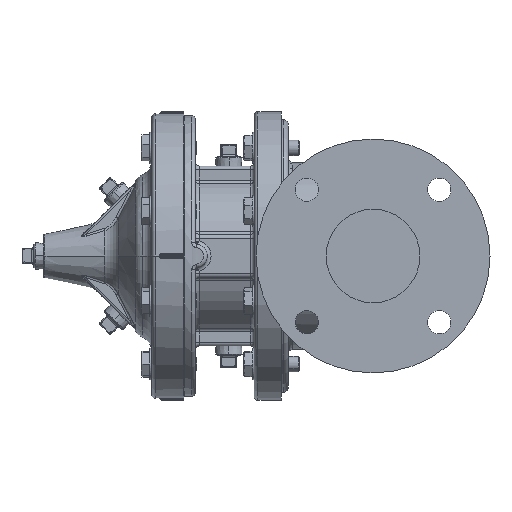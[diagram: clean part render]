
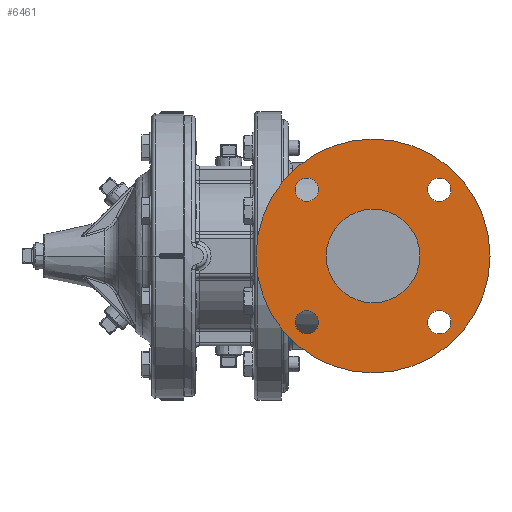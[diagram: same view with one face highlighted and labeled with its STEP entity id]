
A CAD part, left-side view. The second image highlights one B-rep face of the part: STEP entity #6461.
In plain terms, the highlighted planar face has unit normal (-1, 0, 0).
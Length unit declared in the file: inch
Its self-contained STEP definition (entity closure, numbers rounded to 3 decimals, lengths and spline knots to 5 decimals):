
#175 = CARTESIAN_POINT ( 'NONE',  ( -6., 2.12132, -2.49632 ) ) ;
#448 = DIRECTION ( 'NONE',  ( 0., 1., 0. ) ) ;
#462 = DIRECTION ( 'NONE',  ( -1., 0., 0. ) ) ;
#495 = EDGE_LOOP ( 'NONE', ( #30201, #11925 ) ) ;
#1081 = CARTESIAN_POINT ( 'NONE',  ( -6., 1.74632, 2.12132 ) ) ;
#1270 = CIRCLE ( 'NONE', #4134, 1.5 ) ;
#1379 = VERTEX_POINT ( 'NONE', #31043 ) ;
#1425 = DIRECTION ( 'NONE',  ( 0., -1., 0. ) ) ;
#1716 = CIRCLE ( 'NONE', #2706, 0.375 ) ;
#2130 = VERTEX_POINT ( 'NONE', #15924 ) ;
#2172 = CIRCLE ( 'NONE', #16951, 0.375 ) ;
#2397 = AXIS2_PLACEMENT_3D ( 'NONE', #24529, #9007, #27159 ) ;
#2706 = AXIS2_PLACEMENT_3D ( 'NONE', #4688, #22802, #7264 ) ;
#2957 = FACE_BOUND ( 'NONE', #27033, .T. ) ;
#3068 = ORIENTED_EDGE ( 'NONE', *, *, #25848, .T. ) ;
#3079 = EDGE_CURVE ( 'NONE', #21194, #2130, #23869, .T. ) ;
#3099 = ORIENTED_EDGE ( 'NONE', *, *, #13974, .F. ) ;
#3393 = ORIENTED_EDGE ( 'NONE', *, *, #25536, .T. ) ;
#3557 = CIRCLE ( 'NONE', #8968, 0.375 ) ;
#3596 = DIRECTION ( 'NONE',  ( -1., 0., 0. ) ) ;
#3681 = CARTESIAN_POINT ( 'NONE',  ( -6., -2.12132, 2.12132 ) ) ;
#3771 = FACE_BOUND ( 'NONE', #11398, .T. ) ;
#3871 = VERTEX_POINT ( 'NONE', #1081 ) ;
#4134 = AXIS2_PLACEMENT_3D ( 'NONE', #7336, #25468, #9949 ) ;
#4347 = AXIS2_PLACEMENT_3D ( 'NONE', #31495, #15976, #448 ) ;
#4688 = CARTESIAN_POINT ( 'NONE',  ( -6., -2.12132, -2.12132 ) ) ;
#5782 = EDGE_LOOP ( 'NONE', ( #3393, #3068 ) ) ;
#5791 = VERTEX_POINT ( 'NONE', #18287 ) ;
#6229 = VERTEX_POINT ( 'NONE', #20164 ) ;
#6284 = DIRECTION ( 'NONE',  ( 0., 0., -1. ) ) ;
#6461 = ADVANCED_FACE ( 'NONE', ( #16732, #22821, #3771, #2957, #29708, #15931 ), #26713, .T. ) ;
#7264 = DIRECTION ( 'NONE',  ( 0., 1., 0. ) ) ;
#7336 = CARTESIAN_POINT ( 'NONE',  ( -6., 0., 0. ) ) ;
#7349 = EDGE_CURVE ( 'NONE', #9423, #14974, #1270, .T. ) ;
#8240 = VERTEX_POINT ( 'NONE', #175 ) ;
#8333 = CARTESIAN_POINT ( 'NONE',  ( -6., 0., 0. ) ) ;
#8968 = AXIS2_PLACEMENT_3D ( 'NONE', #3681, #21801, #6284 ) ;
#9007 = DIRECTION ( 'NONE',  ( -1., 0., 0. ) ) ;
#9423 = VERTEX_POINT ( 'NONE', #29443 ) ;
#9525 = CIRCLE ( 'NONE', #21653, 0.375 ) ;
#9604 = CIRCLE ( 'NONE', #28481, 3.75 ) ;
#9783 = DIRECTION ( 'NONE',  ( -1., 0., 0. ) ) ;
#9929 = CARTESIAN_POINT ( 'NONE',  ( -6., -2.12132, 1.74632 ) ) ;
#9949 = DIRECTION ( 'NONE',  ( 0., -1., 0. ) ) ;
#10596 = ORIENTED_EDGE ( 'NONE', *, *, #20784, .F. ) ;
#10631 = DIRECTION ( 'NONE',  ( -1., 0., 0. ) ) ;
#10918 = DIRECTION ( 'NONE',  ( 0., 0., 1. ) ) ;
#11204 = CARTESIAN_POINT ( 'NONE',  ( -6., 0., 3.75 ) ) ;
#11398 = EDGE_LOOP ( 'NONE', ( #20267, #3099 ) ) ;
#11802 = EDGE_CURVE ( 'NONE', #5791, #17059, #3557, .T. ) ;
#11925 = ORIENTED_EDGE ( 'NONE', *, *, #14701, .F. ) ;
#12559 = DIRECTION ( 'NONE',  ( -1., 0., 0. ) ) ;
#12746 = CARTESIAN_POINT ( 'NONE',  ( -6., -2.12132, 2.12132 ) ) ;
#13320 = ORIENTED_EDGE ( 'NONE', *, *, #30744, .F. ) ;
#13956 = CIRCLE ( 'NONE', #25678, 0.375 ) ;
#13974 = EDGE_CURVE ( 'NONE', #8240, #20077, #21750, .T. ) ;
#14701 = EDGE_CURVE ( 'NONE', #1379, #3871, #9525, .T. ) ;
#14974 = VERTEX_POINT ( 'NONE', #22247 ) ;
#15302 = EDGE_LOOP ( 'NONE', ( #15720, #15969 ) ) ;
#15360 = DIRECTION ( 'NONE',  ( 0., 0., -1. ) ) ;
#15589 = CIRCLE ( 'NONE', #27907, 0.375 ) ;
#15720 = ORIENTED_EDGE ( 'NONE', *, *, #11802, .F. ) ;
#15924 = CARTESIAN_POINT ( 'NONE',  ( -6., -2.49632, -2.12132 ) ) ;
#15931 = FACE_OUTER_BOUND ( 'NONE', #5782, .T. ) ;
#15969 = ORIENTED_EDGE ( 'NONE', *, *, #30960, .F. ) ;
#15976 = DIRECTION ( 'NONE',  ( -1., 0., 0. ) ) ;
#15991 = CARTESIAN_POINT ( 'NONE',  ( -6., 2.12132, -2.12132 ) ) ;
#16162 = CIRCLE ( 'NONE', #2397, 3.75 ) ;
#16732 = FACE_BOUND ( 'NONE', #15302, .T. ) ;
#16850 = EDGE_CURVE ( 'NONE', #3871, #1379, #2172, .T. ) ;
#16951 = AXIS2_PLACEMENT_3D ( 'NONE', #28120, #12559, #30705 ) ;
#16963 = DIRECTION ( 'NONE',  ( -1., 0., 0. ) ) ;
#17059 = VERTEX_POINT ( 'NONE', #9929 ) ;
#18287 = CARTESIAN_POINT ( 'NONE',  ( -6., -2.12132, 2.49632 ) ) ;
#18614 = DIRECTION ( 'NONE',  ( 0., 0., 1. ) ) ;
#19128 = CARTESIAN_POINT ( 'NONE',  ( -6., 0., 0. ) ) ;
#19298 = EDGE_CURVE ( 'NONE', #20077, #8240, #13956, .T. ) ;
#19744 = EDGE_LOOP ( 'NONE', ( #10596, #22757 ) ) ;
#20077 = VERTEX_POINT ( 'NONE', #30652 ) ;
#20164 = CARTESIAN_POINT ( 'NONE',  ( -6., 0., -3.75 ) ) ;
#20267 = ORIENTED_EDGE ( 'NONE', *, *, #19298, .F. ) ;
#20784 = EDGE_CURVE ( 'NONE', #2130, #21194, #1716, .T. ) ;
#20846 = ORIENTED_EDGE ( 'NONE', *, *, #7349, .F. ) ;
#21194 = VERTEX_POINT ( 'NONE', #32392 ) ;
#21653 = AXIS2_PLACEMENT_3D ( 'NONE', #25308, #9783, #27954 ) ;
#21713 = AXIS2_PLACEMENT_3D ( 'NONE', #32472, #16963, #1425 ) ;
#21719 = DIRECTION ( 'NONE',  ( 0., -1., 0. ) ) ;
#21750 = CIRCLE ( 'NONE', #32276, 0.375 ) ;
#21801 = DIRECTION ( 'NONE',  ( -1., 0., 0. ) ) ;
#22247 = CARTESIAN_POINT ( 'NONE',  ( -6., 1.5, 0. ) ) ;
#22757 = ORIENTED_EDGE ( 'NONE', *, *, #3079, .F. ) ;
#22802 = DIRECTION ( 'NONE',  ( -1., 0., 0. ) ) ;
#22821 = FACE_BOUND ( 'NONE', #19744, .T. ) ;
#23869 = CIRCLE ( 'NONE', #4347, 0.375 ) ;
#24529 = CARTESIAN_POINT ( 'NONE',  ( -6., 0., 0. ) ) ;
#25308 = CARTESIAN_POINT ( 'NONE',  ( -6., 2.12132, 2.12132 ) ) ;
#25468 = DIRECTION ( 'NONE',  ( -1., 0., 0. ) ) ;
#25536 = EDGE_CURVE ( 'NONE', #31502, #6229, #16162, .T. ) ;
#25678 = AXIS2_PLACEMENT_3D ( 'NONE', #15991, #462, #18614 ) ;
#25715 = CIRCLE ( 'NONE', #28585, 1.5 ) ;
#25848 = EDGE_CURVE ( 'NONE', #6229, #31502, #9604, .T. ) ;
#26169 = CARTESIAN_POINT ( 'NONE',  ( -6., 2.12132, -2.12132 ) ) ;
#26451 = DIRECTION ( 'NONE',  ( -1., 0., 0. ) ) ;
#26713 = PLANE ( 'NONE',  #21713 ) ;
#27033 = EDGE_LOOP ( 'NONE', ( #20846, #13320 ) ) ;
#27159 = DIRECTION ( 'NONE',  ( 0., 0., 1. ) ) ;
#27907 = AXIS2_PLACEMENT_3D ( 'NONE', #12746, #30875, #15360 ) ;
#27954 = DIRECTION ( 'NONE',  ( 0., -1., 0. ) ) ;
#28120 = CARTESIAN_POINT ( 'NONE',  ( -6., 2.12132, 2.12132 ) ) ;
#28481 = AXIS2_PLACEMENT_3D ( 'NONE', #8333, #26451, #10918 ) ;
#28585 = AXIS2_PLACEMENT_3D ( 'NONE', #19128, #3596, #21719 ) ;
#28792 = DIRECTION ( 'NONE',  ( 0., 0., 1. ) ) ;
#29443 = CARTESIAN_POINT ( 'NONE',  ( -6., -1.5, 0. ) ) ;
#29708 = FACE_BOUND ( 'NONE', #495, .T. ) ;
#30201 = ORIENTED_EDGE ( 'NONE', *, *, #16850, .F. ) ;
#30652 = CARTESIAN_POINT ( 'NONE',  ( -6., 2.12132, -1.74632 ) ) ;
#30705 = DIRECTION ( 'NONE',  ( 0., -1., 0. ) ) ;
#30744 = EDGE_CURVE ( 'NONE', #14974, #9423, #25715, .T. ) ;
#30875 = DIRECTION ( 'NONE',  ( -1., 0., 0. ) ) ;
#30960 = EDGE_CURVE ( 'NONE', #17059, #5791, #15589, .T. ) ;
#31043 = CARTESIAN_POINT ( 'NONE',  ( -6., 2.49632, 2.12132 ) ) ;
#31495 = CARTESIAN_POINT ( 'NONE',  ( -6., -2.12132, -2.12132 ) ) ;
#31502 = VERTEX_POINT ( 'NONE', #11204 ) ;
#32276 = AXIS2_PLACEMENT_3D ( 'NONE', #26169, #10631, #28792 ) ;
#32392 = CARTESIAN_POINT ( 'NONE',  ( -6., -1.74632, -2.12132 ) ) ;
#32472 = CARTESIAN_POINT ( 'NONE',  ( -6., 0., 0. ) ) ;
